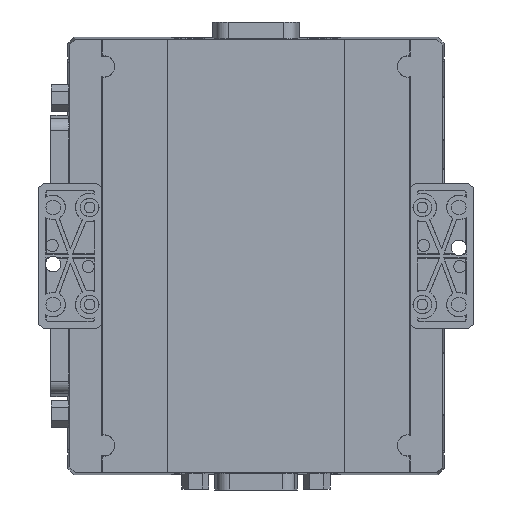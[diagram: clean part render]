
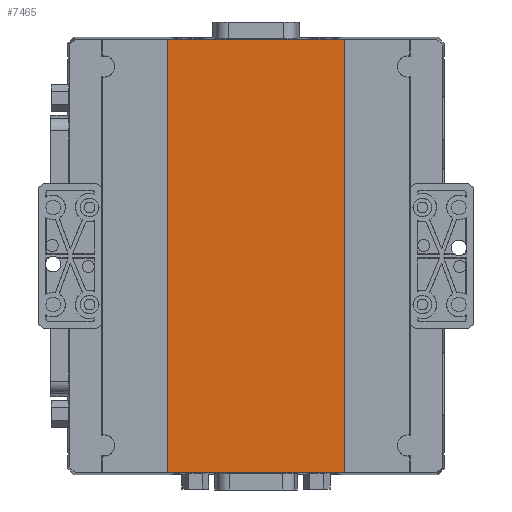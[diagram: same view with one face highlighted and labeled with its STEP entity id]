
A CAD part, front view. The second image highlights one B-rep face of the part: STEP entity #7465.
In plain terms, the highlighted planar face has unit normal (0, -1, 0).
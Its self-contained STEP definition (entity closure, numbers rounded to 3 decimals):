
#825=PLANE('',#23131);
#1707=FACE_OUTER_BOUND('',#9444,.T.);
#2894=LINE('',#31459,#5174);
#2895=LINE('',#31462,#5175);
#2896=LINE('',#31464,#5176);
#2897=LINE('',#31466,#5177);
#5174=VECTOR('',#25147,1.);
#5175=VECTOR('',#25148,1.);
#5176=VECTOR('',#25149,1.);
#5177=VECTOR('',#25150,1.);
#7465=ADVANCED_FACE('',(#1707),#825,.F.);
#9444=EDGE_LOOP('',(#10915,#10916,#10917,#10918));
#10915=ORIENTED_EDGE('',*,*,#19355,.F.);
#10916=ORIENTED_EDGE('',*,*,#19356,.T.);
#10917=ORIENTED_EDGE('',*,*,#19357,.T.);
#10918=ORIENTED_EDGE('',*,*,#19358,.F.);
#17245=VERTEX_POINT('',#31460);
#17246=VERTEX_POINT('',#31461);
#17247=VERTEX_POINT('',#31463);
#17248=VERTEX_POINT('',#31465);
#19355=EDGE_CURVE('',#17245,#17246,#2894,.T.);
#19356=EDGE_CURVE('',#17245,#17247,#2895,.T.);
#19357=EDGE_CURVE('',#17247,#17248,#2896,.T.);
#19358=EDGE_CURVE('',#17246,#17248,#2897,.T.);
#23131=AXIS2_PLACEMENT_3D('',#31467,#25151,#25152);
#25147=DIRECTION('',(-1.,0.,0.));
#25148=DIRECTION('',(0.,0.,1.));
#25149=DIRECTION('',(-1.,0.,0.));
#25150=DIRECTION('',(0.,0.,1.));
#25151=DIRECTION('',(0.,1.,0.));
#25152=DIRECTION('',(-1.,0.,0.));
#31459=CARTESIAN_POINT('',(215.259,2.5,171.388));
#31460=CARTESIAN_POINT('',(215.259,2.5,171.388));
#31461=CARTESIAN_POINT('',(178.75,2.5,171.388));
#31462=CARTESIAN_POINT('',(215.259,2.5,199.6));
#31463=CARTESIAN_POINT('',(215.259,2.5,260.612));
#31464=CARTESIAN_POINT('',(215.259,2.5,260.612));
#31465=CARTESIAN_POINT('',(178.75,2.5,260.612));
#31466=CARTESIAN_POINT('',(178.75,2.5,205.018));
#31467=CARTESIAN_POINT('',(215.25,2.5,162.));
